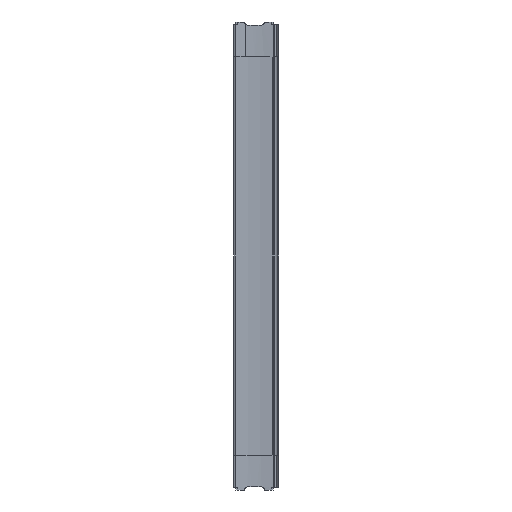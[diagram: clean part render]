
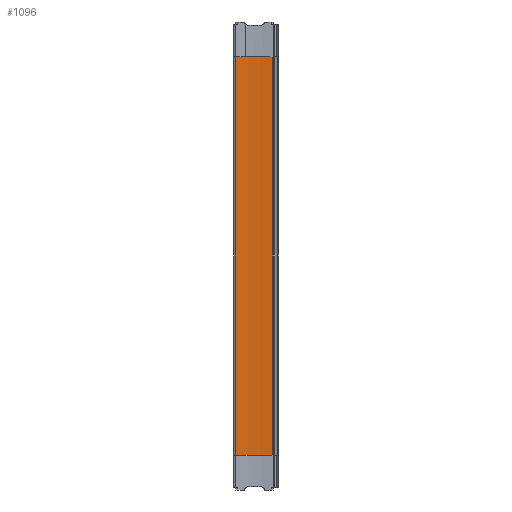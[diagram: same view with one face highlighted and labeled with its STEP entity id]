
A CAD part, left-side view. The second image highlights one B-rep face of the part: STEP entity #1096.
In plain terms, the highlighted cylindrical face has radius 250 mm (diameter 500 mm), a partial arc.
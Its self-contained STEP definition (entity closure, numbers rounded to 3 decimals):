
#612 = ORIENTED_EDGE ( 'NONE', *, *, #3149, .T. ) ;
#613 = ORIENTED_EDGE ( 'NONE', *, *, #3177, .F. ) ;
#614 = ORIENTED_EDGE ( 'NONE', *, *, #3087, .F. ) ;
#615 = ORIENTED_EDGE ( 'NONE', *, *, #3090, .F. ) ;
#879 = EDGE_LOOP ( 'NONE', ( #615, #614, #613, #612 ) ) ;
#1096 = ADVANCED_FACE ( 'NONE', ( #2543 ), #2540, .F. ) ;
#1382 = VERTEX_POINT ( 'NONE', #2268 ) ;
#1389 = VERTEX_POINT ( 'NONE', #2275 ) ;
#1429 = VERTEX_POINT ( 'NONE', #2315 ) ;
#1430 = VERTEX_POINT ( 'NONE', #2316 ) ;
#1886 = DIRECTION ( 'NONE',  ( -1., 0., 0. ) ) ;
#1887 = DIRECTION ( 'NONE',  ( 0., 0., -1. ) ) ;
#1888 = CARTESIAN_POINT ( 'NONE',  ( -255.319, 48.963, 298.5 ) ) ;
#2268 = CARTESIAN_POINT ( 'NONE',  ( -5.747, 63.571, -292.5 ) ) ;
#2275 = CARTESIAN_POINT ( 'NONE',  ( -5.747, 63.571, 292.5 ) ) ;
#2315 = CARTESIAN_POINT ( 'NONE',  ( -8.643, 8.331, -292.5 ) ) ;
#2316 = CARTESIAN_POINT ( 'NONE',  ( -8.643, 8.331, 292.5 ) ) ;
#2540 = CYLINDRICAL_SURFACE ( 'NONE', #3265, 250. ) ;
#2543 = FACE_OUTER_BOUND ( 'NONE', #879, .T. ) ;
#3087 = EDGE_CURVE ( 'NONE', #1430, #1429, #4228, .T. ) ;
#3090 = EDGE_CURVE ( 'NONE', #1429, #1382, #4242, .T. ) ;
#3149 = EDGE_CURVE ( 'NONE', #1389, #1382, #4338, .T. ) ;
#3177 = EDGE_CURVE ( 'NONE', #1389, #1430, #4283, .T. ) ;
#3265 = AXIS2_PLACEMENT_3D ( 'NONE', #1888, #1887, #1886 ) ;
#3409 = AXIS2_PLACEMENT_3D ( 'NONE', #3850, #3855, #3856 ) ;
#3453 = AXIS2_PLACEMENT_3D ( 'NONE', #4099, #4105, #4106 ) ;
#3848 = CARTESIAN_POINT ( 'NONE',  ( -8.643, 8.331, 298.5 ) ) ;
#3849 = DIRECTION ( 'NONE',  ( 0., 0., -1. ) ) ;
#3850 = CARTESIAN_POINT ( 'NONE',  ( -255.319, 48.963, -292.5 ) ) ;
#3855 = DIRECTION ( 'NONE',  ( 0., 0., 1. ) ) ;
#3856 = DIRECTION ( 'NONE',  ( -1., 0., 0. ) ) ;
#4028 = CARTESIAN_POINT ( 'NONE',  ( -5.747, 63.571, 298.5 ) ) ;
#4030 = DIRECTION ( 'NONE',  ( 0., 0., -1. ) ) ;
#4099 = CARTESIAN_POINT ( 'NONE',  ( -255.319, 48.963, 292.5 ) ) ;
#4105 = DIRECTION ( 'NONE',  ( 0., 0., -1. ) ) ;
#4106 = DIRECTION ( 'NONE',  ( 1., 0., 0. ) ) ;
#4218 = VECTOR ( 'NONE', #3849, 1000. ) ;
#4228 = LINE ( 'NONE', #3848, #4218 ) ;
#4242 = CIRCLE ( 'NONE', #3409, 250. ) ;
#4283 = CIRCLE ( 'NONE', #3453, 250. ) ;
#4329 = VECTOR ( 'NONE', #4030, 1000. ) ;
#4338 = LINE ( 'NONE', #4028, #4329 ) ;
